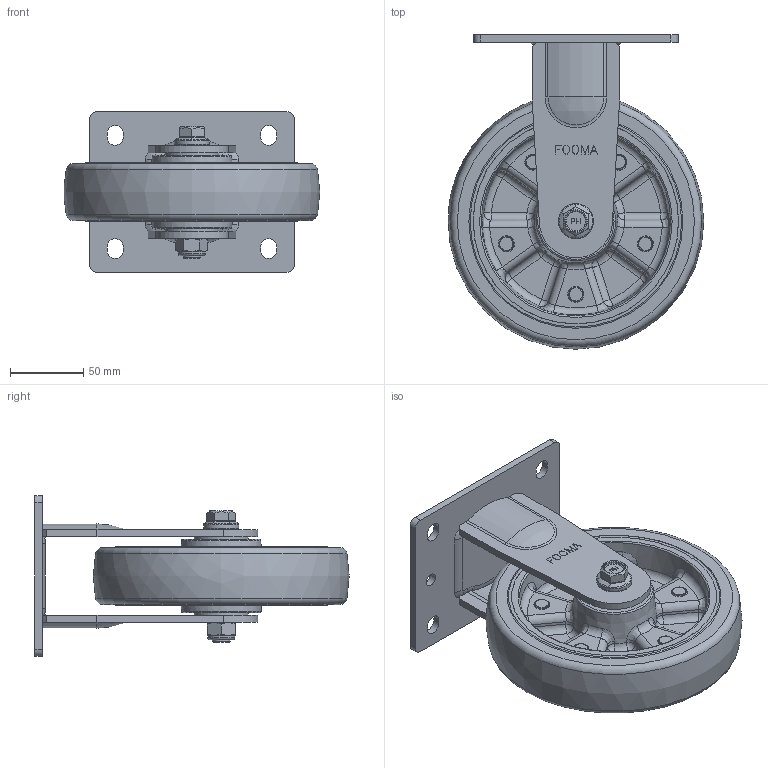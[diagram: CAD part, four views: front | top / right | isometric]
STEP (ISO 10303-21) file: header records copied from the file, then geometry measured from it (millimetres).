
FILE_DESCRIPTION(/* description */ (''),/* implementation_level */ '2;1');
FILE_NAME(/* name */ '\\192.168.10.38\지덕공유\1.기술연구소\2.연구개발 진행중\28.PLM-SERIES_MEDIUM\제품설계\홈페이지용 도면\PLM-175-ARF-MUD-PEU.stp',/* time_stamp */ '2022-03-04T18:08:27+09:00',/* author */ ('admin'),/* organization */ (''),/* preprocessor_version */ 'ST-DEVELOPER v18.1',/* originating_system */ 'Autodesk Inventor 2021',/* authorisation */ '');
FILE_SCHEMA (('AUTOMOTIVE_DESIGN { 1 0 10303 214 3 1 1 }'));
Length unit declared in the file: millimetre
Products named in the file (1): PLM-175-ARF-MUD-PEU
Bounding box: 174.82 x 214.99 x 110 mm (x, y, z)
Volume: 761714.6 mm3; surface area: 154018 mm2
Topology: 1 solids, 1 shells, 978 faces, 2563 edges, 1641 vertices
Faces by surface type: plane 632, bspline 107, torus 92, cylinder 86, sphere 44, cone 17
Full cylindrical faces by diameter (mm): 9 x2, 12 x1, 14 x1, 18.5 x1, 24 x1, 37 x2
Entity records: 35169 total; most frequent: CARTESIAN_POINT 11134, ORIENTED_EDGE 5126, DIRECTION 4809, EDGE_CURVE 2563, LINE 1737, VECTOR 1737, VERTEX_POINT 1641, AXIS2_PLACEMENT_3D 1536
